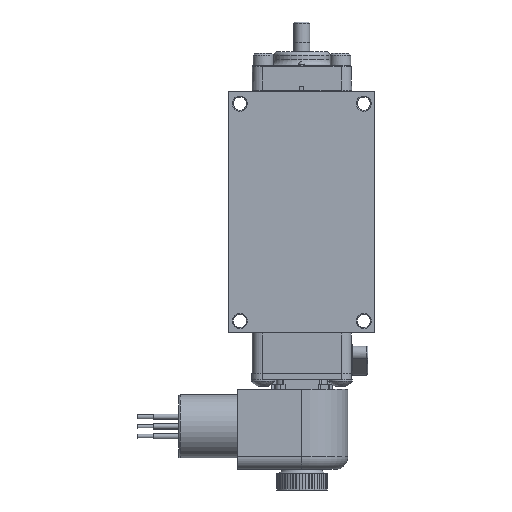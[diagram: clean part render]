
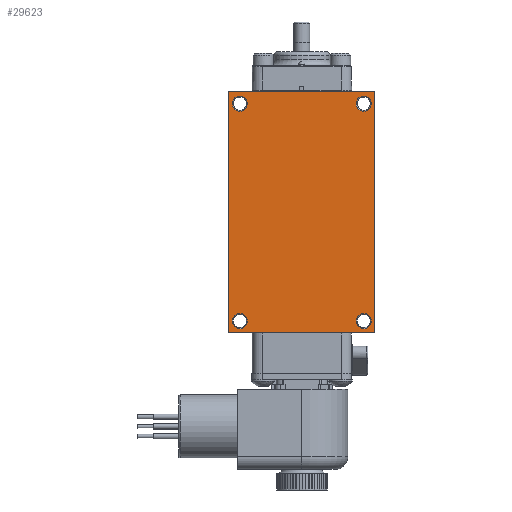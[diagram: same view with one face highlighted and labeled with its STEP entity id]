
A CAD part, front view. The second image highlights one B-rep face of the part: STEP entity #29623.
In plain terms, the highlighted planar face has unit normal (0, -1, 0).
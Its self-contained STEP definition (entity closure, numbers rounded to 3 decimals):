
#1175=FACE_BOUND('',#4682,.T.);
#1176=FACE_BOUND('',#4683,.T.);
#1177=FACE_BOUND('',#4684,.T.);
#1178=FACE_BOUND('',#4685,.T.);
#1699=PLANE('',#32123);
#2905=FACE_OUTER_BOUND('',#4681,.T.);
#4681=EDGE_LOOP('',(#22417,#22418,#22419,#22420));
#4682=EDGE_LOOP('',(#22421));
#4683=EDGE_LOOP('',(#22422));
#4684=EDGE_LOOP('',(#22423));
#4685=EDGE_LOOP('',(#22424));
#6445=CIRCLE('',#32112,0.296);
#6447=CIRCLE('',#32116,0.296);
#6449=CIRCLE('',#32120,0.296);
#6451=CIRCLE('',#32124,0.296);
#8229=LINE('',#47041,#10427);
#8230=LINE('',#47043,#10428);
#8231=LINE('',#47045,#10429);
#8232=LINE('',#47046,#10430);
#10427=VECTOR('',#37890,1.);
#10428=VECTOR('',#37891,1.);
#10429=VECTOR('',#37892,1.);
#10430=VECTOR('',#37893,1.);
#12826=VERTEX_POINT('',#47015);
#12828=VERTEX_POINT('',#47023);
#12830=VERTEX_POINT('',#47031);
#12832=VERTEX_POINT('',#47039);
#12833=VERTEX_POINT('',#47040);
#12834=VERTEX_POINT('',#47042);
#12835=VERTEX_POINT('',#47044);
#12836=VERTEX_POINT('',#47047);
#16237=EDGE_CURVE('',#12826,#12826,#6445,.T.);
#16241=EDGE_CURVE('',#12828,#12828,#6447,.T.);
#16245=EDGE_CURVE('',#12830,#12830,#6449,.T.);
#16249=EDGE_CURVE('',#12832,#12833,#8229,.T.);
#16250=EDGE_CURVE('',#12834,#12832,#8230,.T.);
#16251=EDGE_CURVE('',#12835,#12834,#8231,.T.);
#16252=EDGE_CURVE('',#12833,#12835,#8232,.T.);
#16253=EDGE_CURVE('',#12836,#12836,#6451,.T.);
#22417=ORIENTED_EDGE('',*,*,#16249,.F.);
#22418=ORIENTED_EDGE('',*,*,#16250,.F.);
#22419=ORIENTED_EDGE('',*,*,#16251,.F.);
#22420=ORIENTED_EDGE('',*,*,#16252,.F.);
#22421=ORIENTED_EDGE('',*,*,#16245,.F.);
#22422=ORIENTED_EDGE('',*,*,#16237,.F.);
#22423=ORIENTED_EDGE('',*,*,#16241,.F.);
#22424=ORIENTED_EDGE('',*,*,#16253,.F.);
#29623=ADVANCED_FACE('',(#2905,#1175,#1176,#1177,#1178),#1699,.F.);
#32112=AXIS2_PLACEMENT_3D('',#47016,#37860,#37861);
#32116=AXIS2_PLACEMENT_3D('',#47024,#37870,#37871);
#32120=AXIS2_PLACEMENT_3D('',#47032,#37880,#37881);
#32123=AXIS2_PLACEMENT_3D('',#47038,#37888,#37889);
#32124=AXIS2_PLACEMENT_3D('',#47048,#37894,#37895);
#37860=DIRECTION('center_axis',(0.,-1.,0.));
#37861=DIRECTION('ref_axis',(1.,0.,0.));
#37870=DIRECTION('center_axis',(0.,-1.,0.));
#37871=DIRECTION('ref_axis',(1.,0.,0.));
#37880=DIRECTION('center_axis',(0.,-1.,0.));
#37881=DIRECTION('ref_axis',(1.,0.,0.));
#37888=DIRECTION('center_axis',(0.,1.,0.));
#37889=DIRECTION('ref_axis',(0.,0.,1.));
#37890=DIRECTION('',(0.,0.,-1.));
#37891=DIRECTION('',(1.,0.,0.));
#37892=DIRECTION('',(0.,0.,1.));
#37893=DIRECTION('',(-1.,0.,0.));
#37894=DIRECTION('center_axis',(0.,-1.,0.));
#37895=DIRECTION('ref_axis',(1.,0.,0.));
#47015=CARTESIAN_POINT('',(2.125,-1.636,-4.247));
#47016=CARTESIAN_POINT('Origin',(2.421,-1.636,-4.247));
#47023=CARTESIAN_POINT('',(-2.717,-1.636,-4.247));
#47024=CARTESIAN_POINT('Origin',(-2.421,-1.636,-4.247));
#47031=CARTESIAN_POINT('',(-2.717,-1.636,4.247));
#47032=CARTESIAN_POINT('Origin',(-2.421,-1.636,4.247));
#47038=CARTESIAN_POINT('Origin',(0.,-1.636,0.));
#47039=CARTESIAN_POINT('',(2.858,-1.636,4.71));
#47040=CARTESIAN_POINT('',(2.858,-1.636,-4.71));
#47041=CARTESIAN_POINT('',(2.858,-1.636,-4.71));
#47042=CARTESIAN_POINT('',(-2.858,-1.636,4.71));
#47043=CARTESIAN_POINT('',(2.858,-1.636,4.71));
#47044=CARTESIAN_POINT('',(-2.858,-1.636,-4.71));
#47045=CARTESIAN_POINT('',(-2.858,-1.636,4.71));
#47046=CARTESIAN_POINT('',(-2.858,-1.636,-4.71));
#47047=CARTESIAN_POINT('',(2.125,-1.636,4.247));
#47048=CARTESIAN_POINT('Origin',(2.421,-1.636,4.247));
